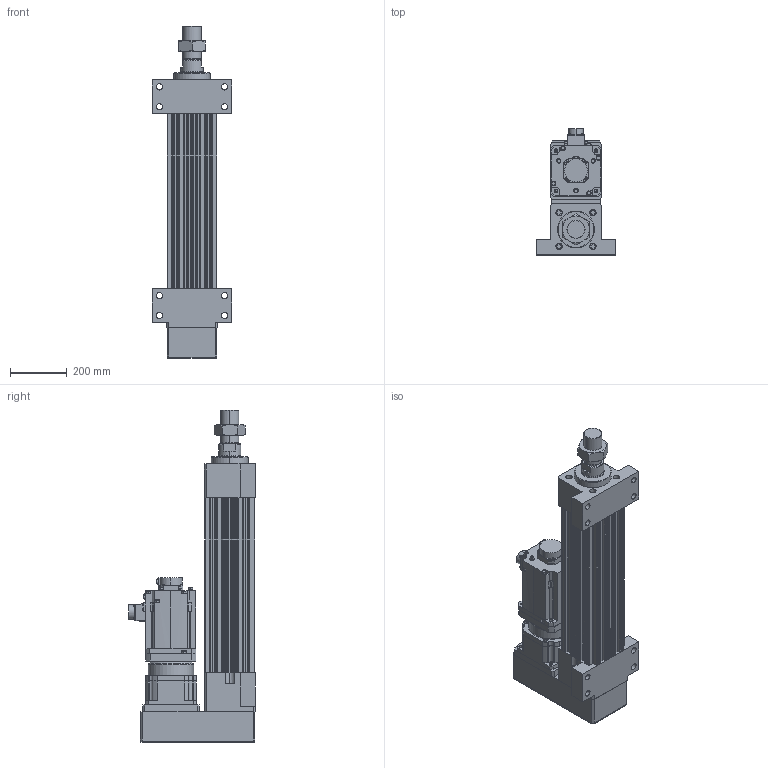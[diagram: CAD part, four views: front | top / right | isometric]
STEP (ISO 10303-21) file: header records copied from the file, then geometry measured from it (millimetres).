
FILE_DESCRIPTION (( 'STEP AP203' ), '1' );
FILE_NAME ('HES180HS-P300-W070G00-M-FFB.STEP', '2026-06-10T06:48:02', ( 'tms' ), ( '' ), 'SwSTEP 2.0', 'SolidWorks 2013', '' );
FILE_SCHEMA (( 'CONFIG_CONTROL_DESIGN' ));
Length unit declared in the file: millimetre
Products named in the file (9): HES180-M-ROD-300; HES180-P-G180; M64X2.0P; HES180HS-P300-W070G00-M-FFB; AB1803; HG-SR702B; AB1802; HES180-FFB-300; AB1801
Assembly tree (8 placements, depth 2):
  HES180HS-P300-W070G00-M-FFB
    HES180-FFB-300
    HES180-M-ROD-300
    M64X2.0P
    HES180-P-G180
    AB1801
    AB1802
    AB1803
    HG-SR702B
Bounding box: 280 x 447.1 x 1172 mm (x, y, z)
Volume: 29183048 mm3; surface area: 2536240.8 mm2
Topology: 5 solids, 20 shells, 1500 faces, 3895 edges, 2540 vertices
Faces by surface type: cylinder 692, plane 607, cone 134, bspline 63, torus 4
Entity records: 54836 total; most frequent: CARTESIAN_POINT 16372, DIRECTION 8097, ORIENTED_EDGE 7714, EDGE_CURVE 3881, AXIS2_PLACEMENT_3D 3045, VERTEX_POINT 2540, LINE 2007, VECTOR 2007
